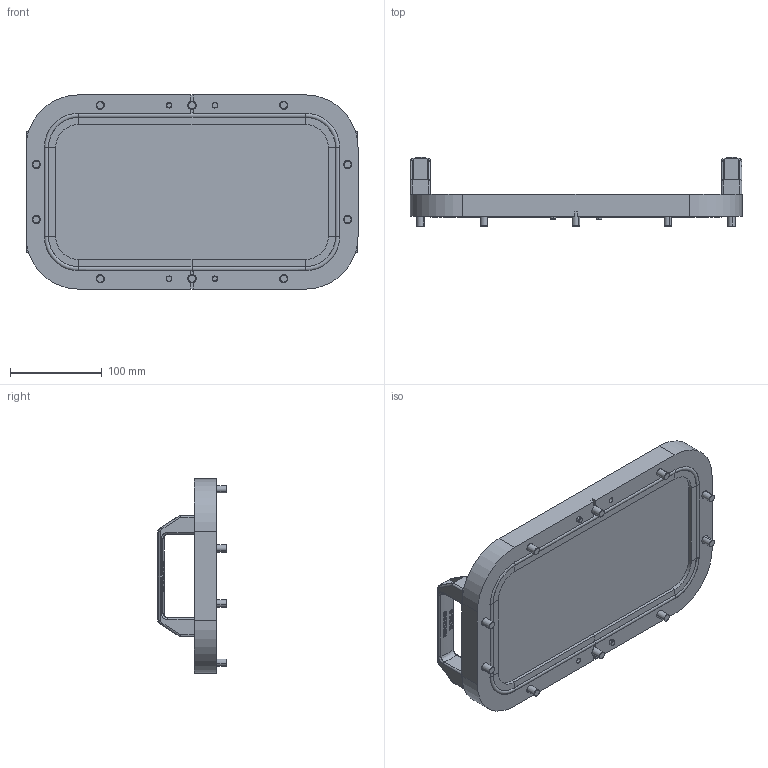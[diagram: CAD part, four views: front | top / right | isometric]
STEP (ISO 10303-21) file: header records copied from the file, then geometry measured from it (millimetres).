
FILE_DESCRIPTION (( 'STEP AP214' ), '1' );
FILE_NAME ('JKR3015-G-A-V-A-200414.STEP', '2020-05-03T06:01:30', ( '' ), ( '' ), 'SwSTEP 2.0', 'SolidWorks 2018', '' );
FILE_SCHEMA (( 'AUTOMOTIVE_DESIGN' ));
Length unit declared in the file: millimetre
Products named in the file (9): JKR3015-G-A-V-A-200414; JKR3015-03F-IR02; bycs-8; JKR3015-04A; JKR3015-01A-IR02; COM-005-6-10L; COM-001-M8-25_ル遽; JKR3015-05A; JKR3015-02B
Assembly tree (19 placements, depth 2):
  JKR3015-G-A-V-A-200414
    JKR3015-03F-IR02
    JKR3015-04A
    JKR3015-01A-IR02
    JKR3015-02B
    JKR3015-05A
    COM-001-M8-25_ル遽  x10
    COM-005-6-10L  x2
    bycs-8  x2
Bounding box: 361.6 x 74.98 x 211.6 mm (x, y, z)
Volume: 1363109.9 mm3; surface area: 330972 mm2
Topology: 17 solids, 19 shells, 1527 faces, 3989 edges, 2563 vertices
Faces by surface type: plane 1069, cylinder 302, cone 72, torus 64, bspline 20
Entity records: 28037 total; most frequent: CARTESIAN_POINT 7814, ORIENTED_EDGE 4470, DIRECTION 3913, EDGE_CURVE 2239, AXIS2_PLACEMENT_3D 1455, VERTEX_POINT 1423, LINE 1003, VECTOR 1003
